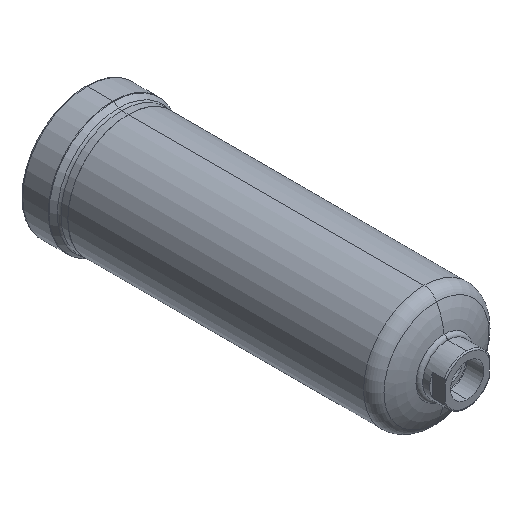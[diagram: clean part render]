
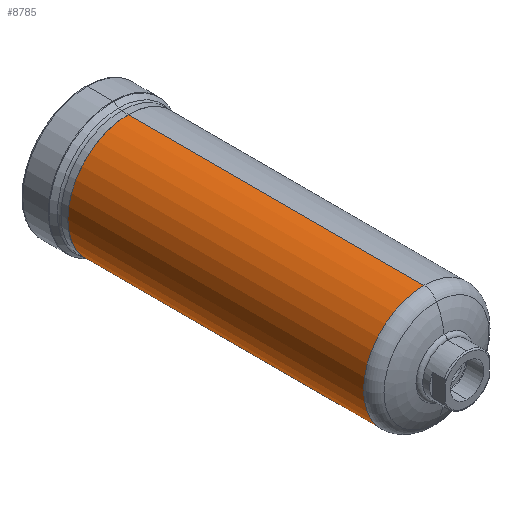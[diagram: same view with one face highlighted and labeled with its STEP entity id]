
A CAD part, isometric view. The second image highlights one B-rep face of the part: STEP entity #8785.
In plain terms, the highlighted cylindrical face has radius 103 mm (diameter 206 mm), a partial arc.
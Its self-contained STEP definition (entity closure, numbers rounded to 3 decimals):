
#104 = DIRECTION ( 'NONE',  ( 0., 0., 1. ) ) ;
#154 = CARTESIAN_POINT ( 'NONE',  ( 0., 73.96, -103. ) ) ;
#225 = ORIENTED_EDGE ( 'NONE', *, *, #7722, .F. ) ;
#393 = VECTOR ( 'NONE', #7932, 1000. ) ;
#1036 = VERTEX_POINT ( 'NONE', #2444 ) ;
#1691 = VERTEX_POINT ( 'NONE', #154 ) ;
#1724 = CYLINDRICAL_SURFACE ( 'NONE', #5766, 103. ) ;
#2194 = EDGE_LOOP ( 'NONE', ( #225, #6472, #5462, #8305 ) ) ;
#2444 = CARTESIAN_POINT ( 'NONE',  ( 0., 73.96, 103. ) ) ;
#2779 = AXIS2_PLACEMENT_3D ( 'NONE', #2855, #4566, #5530 ) ;
#2787 = EDGE_CURVE ( 'NONE', #1036, #1691, #6894, .T. ) ;
#2842 = CARTESIAN_POINT ( 'NONE',  ( 0., 39., -103. ) ) ;
#2855 = CARTESIAN_POINT ( 'NONE',  ( 0., 73.96, 0. ) ) ;
#3245 = EDGE_CURVE ( 'NONE', #5427, #1691, #10303, .T. ) ;
#3687 = VECTOR ( 'NONE', #7953, 1000. ) ;
#4049 = VERTEX_POINT ( 'NONE', #7095 ) ;
#4113 = CARTESIAN_POINT ( 'NONE',  ( 0., 39., 0. ) ) ;
#4566 = DIRECTION ( 'NONE',  ( 0., -1., 0. ) ) ;
#5264 = CIRCLE ( 'NONE', #9732, 103. ) ;
#5320 = CARTESIAN_POINT ( 'NONE',  ( 0., 578.5, -103. ) ) ;
#5427 = VERTEX_POINT ( 'NONE', #5320 ) ;
#5462 = ORIENTED_EDGE ( 'NONE', *, *, #3245, .T. ) ;
#5530 = DIRECTION ( 'NONE',  ( 0., 0., -1. ) ) ;
#5586 = CARTESIAN_POINT ( 'NONE',  ( 0., 39., 103. ) ) ;
#5766 = AXIS2_PLACEMENT_3D ( 'NONE', #4113, #6481, #7382 ) ;
#6472 = ORIENTED_EDGE ( 'NONE', *, *, #10173, .T. ) ;
#6481 = DIRECTION ( 'NONE',  ( 0., -1., 0. ) ) ;
#6894 = CIRCLE ( 'NONE', #2779, 103. ) ;
#7095 = CARTESIAN_POINT ( 'NONE',  ( 0., 578.5, 103. ) ) ;
#7382 = DIRECTION ( 'NONE',  ( 0., 0., -1. ) ) ;
#7722 = EDGE_CURVE ( 'NONE', #4049, #1036, #9573, .T. ) ;
#7932 = DIRECTION ( 'NONE',  ( 0., -1., 0. ) ) ;
#7953 = DIRECTION ( 'NONE',  ( 0., -1., 0. ) ) ;
#8305 = ORIENTED_EDGE ( 'NONE', *, *, #2787, .F. ) ;
#8785 = ADVANCED_FACE ( 'NONE', ( #9867 ), #1724, .T. ) ;
#9169 = DIRECTION ( 'NONE',  ( 0., -1., 0. ) ) ;
#9573 = LINE ( 'NONE', #5586, #3687 ) ;
#9732 = AXIS2_PLACEMENT_3D ( 'NONE', #9815, #9169, #104 ) ;
#9815 = CARTESIAN_POINT ( 'NONE',  ( 0., 578.5, 0. ) ) ;
#9867 = FACE_OUTER_BOUND ( 'NONE', #2194, .T. ) ;
#10173 = EDGE_CURVE ( 'NONE', #4049, #5427, #5264, .T. ) ;
#10303 = LINE ( 'NONE', #2842, #393 ) ;
